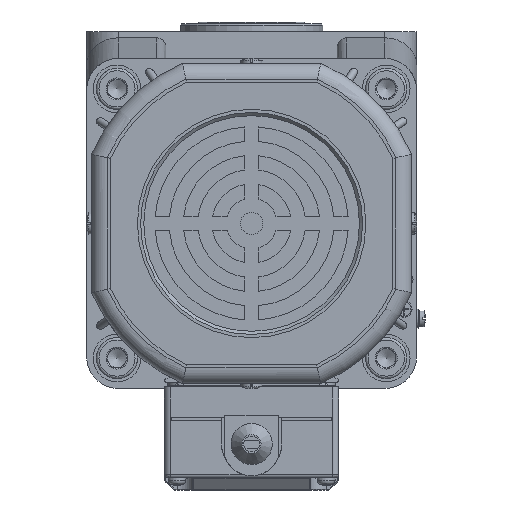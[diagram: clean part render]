
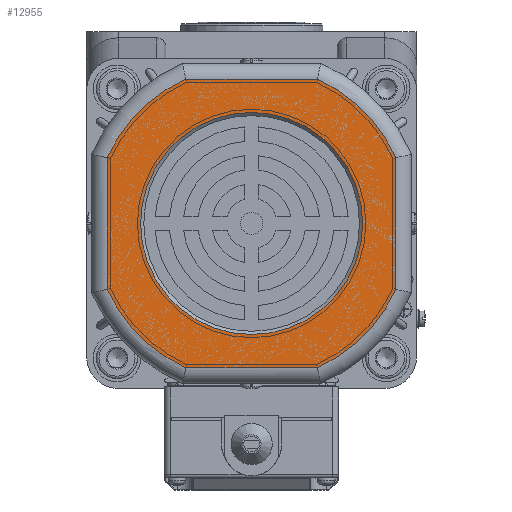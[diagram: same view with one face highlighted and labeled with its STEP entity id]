
A CAD part, left-side view. The second image highlights one B-rep face of the part: STEP entity #12955.
In plain terms, the highlighted planar face has unit normal (-1, 0, 0).
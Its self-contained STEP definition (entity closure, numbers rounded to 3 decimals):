
#3515=PLANE('',#45674);
#7837=LINE('',#71137,#10503);
#7838=LINE('',#71142,#10504);
#7839=LINE('',#71146,#10505);
#7840=LINE('',#71150,#10506);
#10503=VECTOR('',#55650,1.);
#10504=VECTOR('',#55653,1.);
#10505=VECTOR('',#55656,1.);
#10506=VECTOR('',#55659,1.);
#12955=ADVANCED_FACE('',(#14675,#14676),#3515,.F.);
#14675=FACE_BOUND('',#17157,.T.);
#14676=FACE_BOUND('',#17158,.T.);
#17157=EDGE_LOOP('',(#26452,#26453,#26454,#26455,#26456,#26457,#26458,#26459));
#17158=EDGE_LOOP('',(#26460));
#26452=ORIENTED_EDGE('',*,*,#38218,.T.);
#26453=ORIENTED_EDGE('',*,*,#38219,.T.);
#26454=ORIENTED_EDGE('',*,*,#38220,.T.);
#26455=ORIENTED_EDGE('',*,*,#38221,.T.);
#26456=ORIENTED_EDGE('',*,*,#38222,.T.);
#26457=ORIENTED_EDGE('',*,*,#38223,.T.);
#26458=ORIENTED_EDGE('',*,*,#38224,.T.);
#26459=ORIENTED_EDGE('',*,*,#38225,.T.);
#26460=ORIENTED_EDGE('',*,*,#38226,.T.);
#32844=VERTEX_POINT('',#71138);
#32845=VERTEX_POINT('',#71139);
#32846=VERTEX_POINT('',#71141);
#32847=VERTEX_POINT('',#71143);
#32848=VERTEX_POINT('',#71145);
#32849=VERTEX_POINT('',#71147);
#32850=VERTEX_POINT('',#71149);
#32851=VERTEX_POINT('',#71151);
#32852=VERTEX_POINT('',#71154);
#38218=EDGE_CURVE('',#32844,#32845,#7837,.T.);
#38219=EDGE_CURVE('',#32845,#32846,#41735,.T.);
#38220=EDGE_CURVE('',#32846,#32847,#7838,.T.);
#38221=EDGE_CURVE('',#32847,#32848,#41736,.T.);
#38222=EDGE_CURVE('',#32848,#32849,#7839,.T.);
#38223=EDGE_CURVE('',#32849,#32850,#41737,.T.);
#38224=EDGE_CURVE('',#32850,#32851,#7840,.T.);
#38225=EDGE_CURVE('',#32851,#32844,#41738,.T.);
#38226=EDGE_CURVE('',#32852,#32852,#41739,.T.);
#41735=CIRCLE('',#45669,50.);
#41736=CIRCLE('',#45670,50.);
#41737=CIRCLE('',#45671,50.);
#41738=CIRCLE('',#45672,50.);
#41739=CIRCLE('',#45673,35.);
#45669=AXIS2_PLACEMENT_3D('',#71140,#55651,#55652);
#45670=AXIS2_PLACEMENT_3D('',#71144,#55654,#55655);
#45671=AXIS2_PLACEMENT_3D('',#71148,#55657,#55658);
#45672=AXIS2_PLACEMENT_3D('',#71152,#55660,#55661);
#45673=AXIS2_PLACEMENT_3D('',#71153,#55662,#55663);
#45674=AXIS2_PLACEMENT_3D('',#71155,#55664,#55665);
#55650=DIRECTION('',(0.,-1.,0.));
#55651=DIRECTION('',(-1.,0.,0.));
#55652=DIRECTION('',(0.,0.,1.));
#55653=DIRECTION('',(0.,0.,1.));
#55654=DIRECTION('',(-1.,0.,0.));
#55655=DIRECTION('',(0.,0.,1.));
#55656=DIRECTION('',(0.,1.,0.));
#55657=DIRECTION('',(-1.,0.,0.));
#55658=DIRECTION('',(0.,0.,1.));
#55659=DIRECTION('',(0.,0.,-1.));
#55660=DIRECTION('',(-1.,0.,0.));
#55661=DIRECTION('',(0.,0.,1.));
#55662=DIRECTION('',(1.,0.,0.));
#55663=DIRECTION('',(0.,-1.,0.));
#55664=DIRECTION('',(1.,0.,0.));
#55665=DIRECTION('',(0.,0.,1.));
#71137=CARTESIAN_POINT('',(-214.8,-142.46,-103.991));
#71138=CARTESIAN_POINT('',(-214.8,-99.941,-103.991));
#71139=CARTESIAN_POINT('',(-214.8,-141.402,-103.991));
#71140=CARTESIAN_POINT('',(-214.8,-120.671,-58.491));
#71141=CARTESIAN_POINT('',(-214.8,-166.171,-79.221));
#71142=CARTESIAN_POINT('',(-214.8,-166.171,-36.702));
#71143=CARTESIAN_POINT('',(-214.8,-166.171,-37.76));
#71144=CARTESIAN_POINT('',(-214.8,-120.671,-58.491));
#71145=CARTESIAN_POINT('',(-214.8,-141.402,-12.991));
#71146=CARTESIAN_POINT('',(-214.8,-98.882,-12.991));
#71147=CARTESIAN_POINT('',(-214.8,-99.941,-12.991));
#71148=CARTESIAN_POINT('',(-214.8,-120.671,-58.491));
#71149=CARTESIAN_POINT('',(-214.8,-75.171,-37.76));
#71150=CARTESIAN_POINT('',(-214.8,-75.171,-80.28));
#71151=CARTESIAN_POINT('',(-214.8,-75.171,-79.221));
#71152=CARTESIAN_POINT('',(-214.8,-120.671,-58.491));
#71153=CARTESIAN_POINT('',(-214.8,-120.671,-58.491));
#71154=CARTESIAN_POINT('',(-214.8,-155.671,-58.491));
#71155=CARTESIAN_POINT('',(-214.8,-120.671,-58.491));
